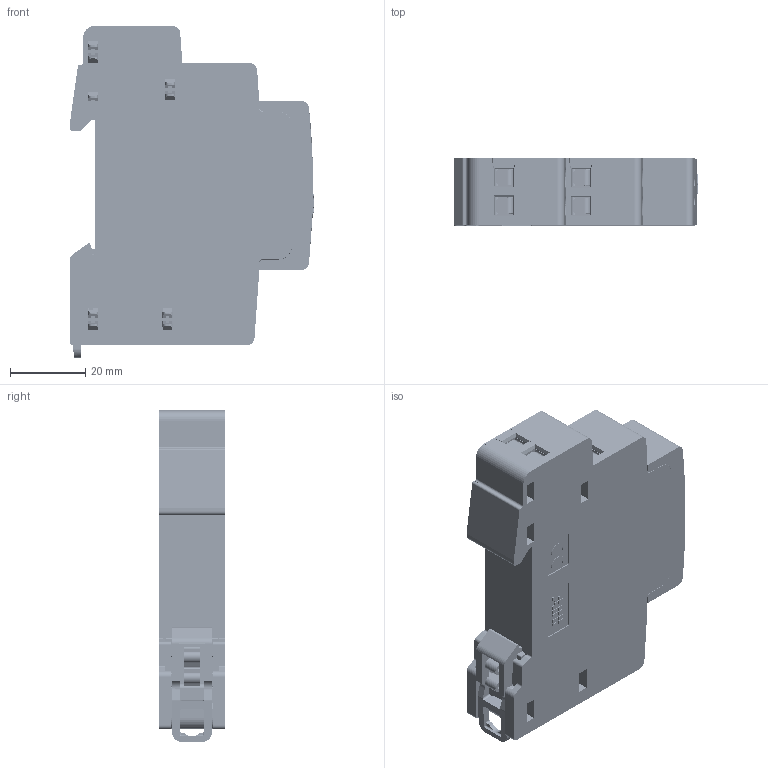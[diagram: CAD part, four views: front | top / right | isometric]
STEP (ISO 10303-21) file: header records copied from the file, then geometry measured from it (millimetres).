
FILE_DESCRIPTION(('CATIA V5 STEP Exchange'),'2;1');
FILE_NAME('C:\Users\itrimer\Desktop\MDRC.stp','2019-12-09T09:25:43+00:00',('none'),('none'),'CATIA Version 5 Release 20 SP 6 (IN-10)','CATIA V5 STEP AP214','none');
FILE_SCHEMA(('AUTOMOTIVE_DESIGN { 1 0 10303 214 1 1 1 1 }'));
Products named in the file (13): 2CSP200003A1001_000_A0_T1 FD MDRC COMPLETO.CATProduct_2PD; 04235877-----_000_A0_INVOLUCRO (3 MORSETTIERE)_2PA; 04234481-4485_2PA_000_A0; 04235892-----_000_A0_COPERCHIO (3 MORSETTIERE)_2PA; 04235762-----_000_C0_FRONTALE 1M-DIN TW-BASE_2PA; 04235776-5780_001_A0_ALBERO PER POTENZIOMETRO_2PA; 04575131-5135_000_A2_MORSETTIERA CON DUE MORSETTI A VITE_2PD; 04576356-6360_000_A1_MORSETTO A VITE_2PD; 04024466-4470_000_A0_VITE PER MORSETTO_2PA; 04024471-4475_000_A1_STAFFA PER MORSETTO_2PA; 04235781-5785_000_B0_CUSTODIA PER DOPPIO MORSETTO_2PA; 04024476-4485_000_A0_CONNESSIONE A DOPPIO ASSETTO_2PA; 2CSP000016A1001_000_A1_ASSIEME PCBA T1FD_2PA
Assembly tree (16 placements, depth 4):
  2CSP200003A1001_000_A0_T1 FD MDRC COMPLETO.CATProduct_2PD
    04235877-----_000_A0_INVOLUCRO (3 MORSETTIERE)_2PA
    04234481-4485_2PA_000_A0
    04235892-----_000_A0_COPERCHIO (3 MORSETTIERE)_2PA
    04235762-----_000_C0_FRONTALE 1M-DIN TW-BASE_2PA
    04235776-5780_001_A0_ALBERO PER POTENZIOMETRO_2PA
    04575131-5135_000_A2_MORSETTIERA CON DUE MORSETTI A VITE_2PD  x3
      04576356-6360_000_A1_MORSETTO A VITE_2PD
        04024466-4470_000_A0_VITE PER MORSETTO_2PA
        04024471-4475_000_A1_STAFFA PER MORSETTO_2PA
      04235781-5785_000_B0_CUSTODIA PER DOPPIO MORSETTO_2PA
      04024476-4485_000_A0_CONNESSIONE A DOPPIO ASSETTO_2PA
    2CSP000016A1001_000_A1_ASSIEME PCBA T1FD_2PA
Bounding box: 65.1 x 17.8 x 88.42 mm (x, y, z)
Volume: 24130.2 mm3; surface area: 49620.3 mm2
Topology: 27 solids, 5675 shells, 11816 faces, 45250 edges, 38535 vertices
Faces by surface type: plane 5571, cylinder 2961, bspline 2313, sphere 486, torus 357, cone 88, extrusion 40
Entity records: 585846 total; most frequent: CARTESIAN_POINT 243062, ORIENTED_EDGE 50361, EDGE_CURVE 40022, DIRECTION 39403, VERTEX_POINT 35656, VECTOR 19591, LINE 19551, B_SPLINE_CURVE_WITH_KNOTS 14335
